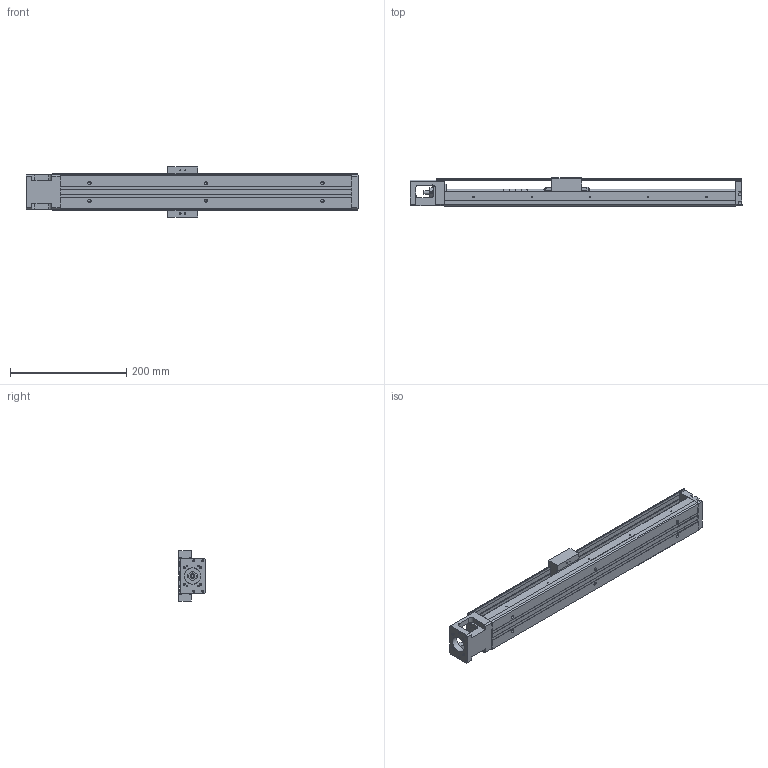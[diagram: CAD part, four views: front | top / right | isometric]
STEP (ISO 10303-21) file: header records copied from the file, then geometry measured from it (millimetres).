
FILE_DESCRIPTION(/* description */ (''),/* implementation_level */ '2;1');
FILE_NAME(/* name */ '33L-500C.stp',/* time_stamp */ '2016-12-20T13:30:16+08:00',/* author */ (''),/* organization */ (''),/* preprocessor_version */ 'ST-DEVELOPER v11',/* originating_system */ 'SIEMENS UGS NX 6.0',/* authorisation */ '');
FILE_SCHEMA (('AUTOMOTIVE_DESIGN { 1 0 10303 214 1 1 1 1 }'));
Length unit declared in the file: millimetre
Products named in the file (1): model4
Bounding box: 570 x 47.95 x 86 mm (x, y, z)
Volume: 732678.1 mm3; surface area: 257912.7 mm2
Topology: 7 solids, 16 shells, 727 faces, 1832 edges, 1212 vertices
Faces by surface type: plane 435, cylinder 205, bspline 31, cone 24, extrusion 21, torus 9, revolution 2
Full cylindrical faces by diameter (mm): 1.6 x5, 1.65 x4, 2.15 x5, 2.42 x4, 2.45 x8, 2.5 x18, 3 x3, 3.2 x4, 3.3 x4, 3.4 x3, 3.5 x10, 3.969 x1, 4 x6, 4.001 x1, 4.135 x4, 4.2 x4, 5.5 x6, 6 x5, 7.6 x1, 8 x5, 9.5 x6, 10.72 x3, 11.8 x2, 12 x6, 12.8 x1, 13 x2, 14 x1, 17.38 x3, 21.5 x1, 22 x2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
Entity records: 37077 total; most frequent: CARTESIAN_POINT 16563, DIRECTION 3296, ORIENTED_EDGE 3174, EDGE_CURVE 1587, AXIS2_PLACEMENT_3D 1160, VERTEX_POINT 1131, EDGE_LOOP 1032, VECTOR 974
